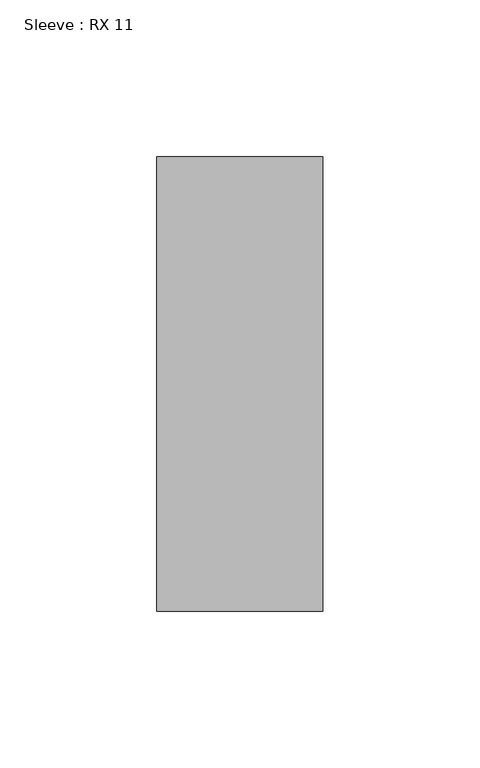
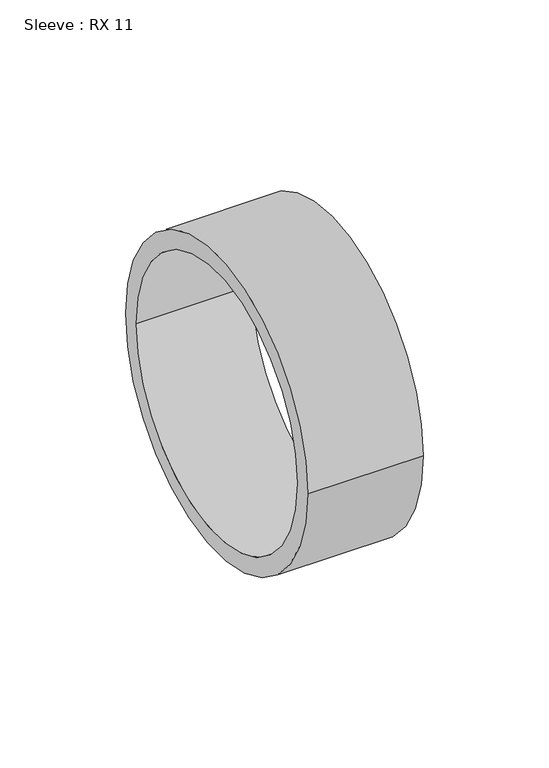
"""IFC4 building model written with IfcOpenShell, lengths in millimetres: pipe fitting geometry, Sleeve : RX 11."""

from ifc_helpers import new_model, si_unit, point, frame, origin, origin_2d, place, context, project, spatial, circle_curve, trimmed, segment, composite_curve, outline, extrude, source, transform, mapped, element, save


def sleeve_rx_11_833a9f47(model_context):
    return source(origin(), model_context, "Body", "SweptSolid", [
        extrude(outline(composite_curve([segment(trimmed(circle_curve(origin_2d(), 72.5), [point((-72.5, 0.0))], [point((72.5, 0.0))], False, "CARTESIAN"), True, "CONTINUOUS"), segment(trimmed(circle_curve(origin_2d(), 72.5), [point((72.5, 0.0))], [point((-72.5, 0.0))], False, "CARTESIAN"), True, "CONTINUOUS")], self_intersect=False), holes=[composite_curve([segment(trimmed(circle_curve(origin_2d(), 64.0), [point((-64.0, 0.0))], [point((64.0, 0.0))], True, "CARTESIAN"), True, "CONTINUOUS"), segment(trimmed(circle_curve(origin_2d(), 64.0), [point((64.0, 0.0))], [point((-64.0, 0.0))], True, "CARTESIAN"), True, "CONTINUOUS")], self_intersect=False)]), frame((0.0, 0.0, 0.0), z_axis=(1.0, 0.0, 0.0), x_axis=(0.0, 1.0, 0.0)), (0.0, 0.0, 1.0), 53.0),
    ])


if __name__ == "__main__":
    model = new_model("IFC4")
    model_context = context("Model", 3, world=origin())
    ifc_project = project(units=[si_unit("LENGTHUNIT", "METRE", prefix="MILLI")], contexts=[model_context])
    site = spatial("IfcSite", under=ifc_project)
    building = spatial("IfcBuilding", under=site)
    placement = place(None, origin())
    sleeve_rx_11_shape = sleeve_rx_11_833a9f47(model_context)
    element("IfcPipeFitting", 1, ObjectType="Sleeve : RX 11", at=placement, inside=building, context=model_context, shape_type="MappedRepresentation", body=[
        mapped(sleeve_rx_11_shape, transform((0.0, 0.0, 0.0), x_axis=(1.0, 0.0, 0.0), y_axis=(0.0, 1.0, 0.0), z_axis=(0.0, 0.0, 1.0))),
    ])
    save(model, "model.ifc")
